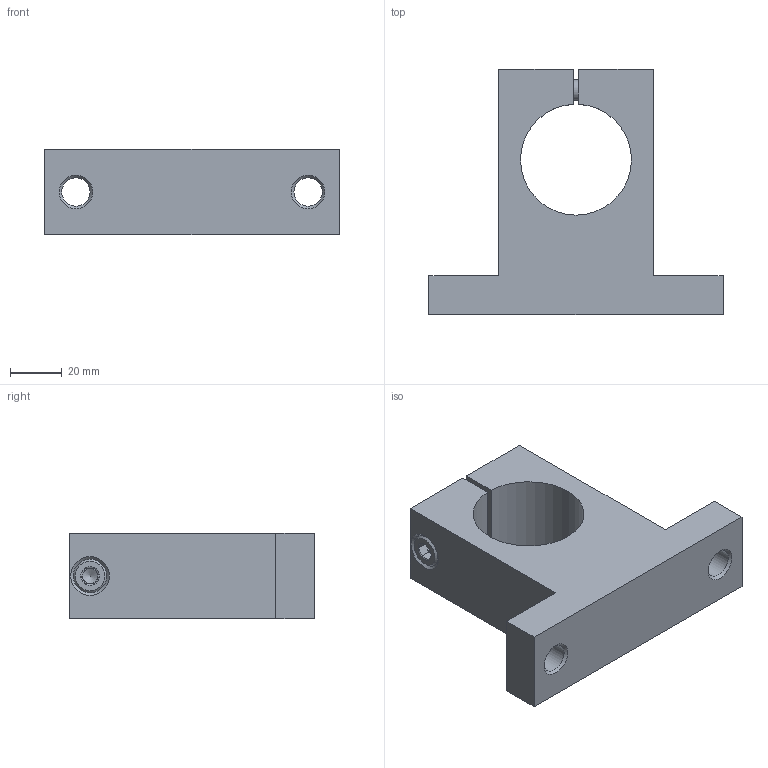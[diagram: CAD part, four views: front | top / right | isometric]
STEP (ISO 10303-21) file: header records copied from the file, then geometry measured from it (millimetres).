
FILE_DESCRIPTION(('STEP AP214'), '1');
FILE_NAME('Êðåïëåíèå H43', '', ('UNSPECIFIED'), ('UNSPECIFIED'), 'ASCON STEP Converter 1.3', 'ASCON Math Kernel', '');
FILE_SCHEMA(('AUTOMOTIVE_DESIGN { 1 0 10303 214 3 1 1}'));
Length unit declared in the file: millimetre
Assembly tree (2 placements, depth 2):
  (unnamed)
    (unnamed)
    (unnamed)
Bounding box: 114 x 95 x 33 mm (x, y, z)
Volume: 163190.3 mm3; surface area: 32849.6 mm2
Topology: 2 solids, 2 shells, 47 faces, 108 edges, 67 vertices
Faces by surface type: plane 29, cylinder 9, cone 9
Full cylindrical faces by diameter (mm): 6 x1, 6.647 x1, 8 x1, 8.5 x1, 11 x2, 13 x2
Entity records: 1896 total; most frequent: CARTESIAN_POINT 350, DIRECTION 216, ORIENTED_EDGE 180, EDGE_CURVE 90, AXIS2_PLACEMENT_3D 82, EDGE_LOOP 74, VERTEX_POINT 66, LINE 52
